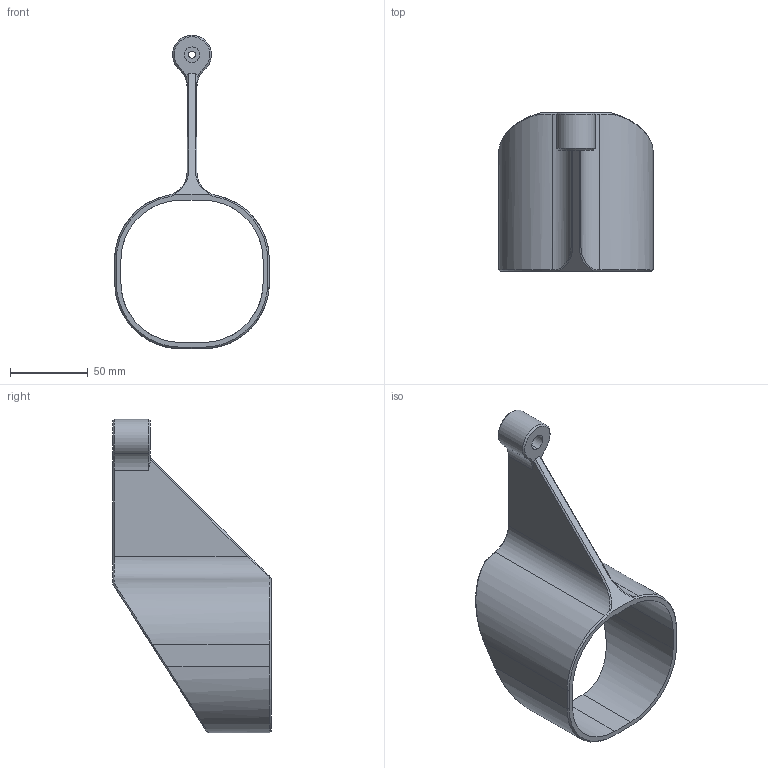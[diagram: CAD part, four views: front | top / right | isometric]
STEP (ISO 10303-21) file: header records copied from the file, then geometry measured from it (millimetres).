
FILE_DESCRIPTION((''),'2;1');
FILE_NAME('DECOM40','2023-01-10T09:08:48',('57dcheng'),(''),'CREO PARAMETRIC BY PTC INC, 2022124','CREO PARAMETRIC BY PTC INC, 2022124','');
FILE_SCHEMA(('AUTOMOTIVE_DESIGN { 1 0 10303 214 1 1 1 1 }'));
Length unit declared in the file: millimetre
Products named in the file (1): DECOM40
Bounding box: 99.4 x 101.6 x 201.41 mm (x, y, z)
Volume: 138865.5 mm3; surface area: 59844.3 mm2
Topology: 1 solids, 1 shells, 64 faces, 162 edges, 100 vertices
Faces by surface type: plane 25, cylinder 17, cone 16, bspline 6
Entity records: 3241 total; most frequent: CARTESIAN_POINT 1073, ORIENTED_EDGE 324, DIRECTION 300, PRESENTATION_STYLE_ASSIGNMENT 163, STYLED_ITEM 163, CURVE_STYLE 162, EDGE_CURVE 162, COLOUR_RGB 113
